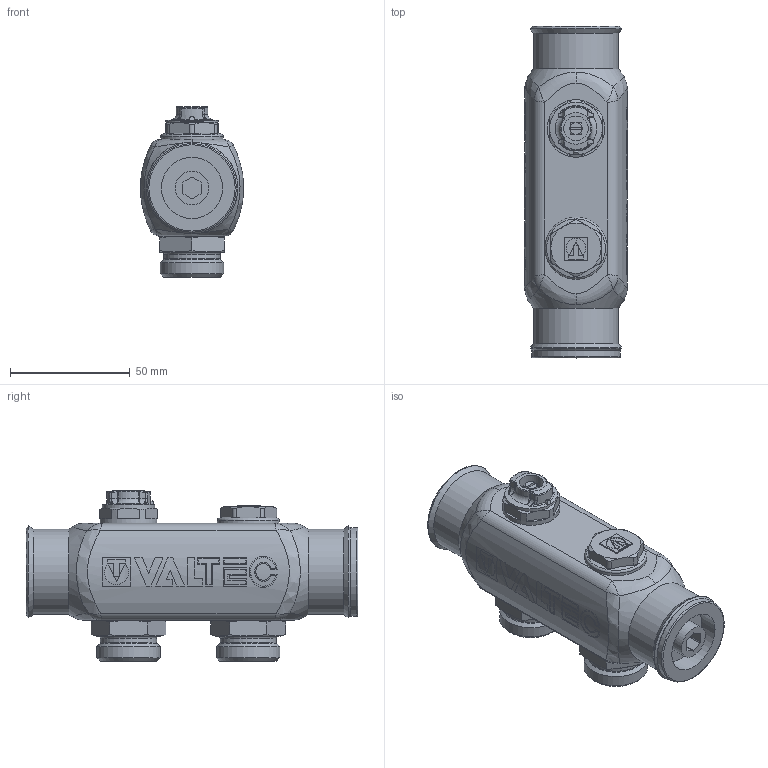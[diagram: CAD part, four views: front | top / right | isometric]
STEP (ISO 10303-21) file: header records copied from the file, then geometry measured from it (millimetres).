
FILE_DESCRIPTION(('STEP AP203'), '1');
FILE_NAME('覆.622621.029.000 捘 - VTc.505.SS.060502', '2024-08-29T07:22:32', ('Boss'), (''), 'C3D Converter', 'C3D Toolkit', '');
FILE_SCHEMA(('CONFIG_CONTROL_DESIGN'));
Length unit declared in the file: millimetre
Products named in the file (1): ВР.622621.029.000 СБ
Bounding box: 43 x 138.5 x 71.1 mm (x, y, z)
Volume: 191320.1 mm3; surface area: 37752 mm2
Topology: 1 solids, 17 shells, 632 faces, 1519 edges, 942 vertices
Faces by surface type: plane 286, cylinder 142, bspline 94, cone 65, torus 37, extrusion 8
Full cylindrical faces by diameter (mm): 5 x1, 5.3 x1, 10.2 x1, 12.5 x2, 14 x1, 18.1 x2, 22 x1, 23.5 x2, 24 x1, 25.5 x1, 26 x1, 26.441 x2, 30.292 x1, 35.5 x2, 37 x1
Entity records: 45872 total; most frequent: CARTESIAN_POINT 32598, ORIENTED_EDGE 2884, DIRECTION 2367, EDGE_CURVE 1442, VERTEX_POINT 943, AXIS2_PLACEMENT_3D 895, EDGE_LOOP 721, FACE_BOUND 652
